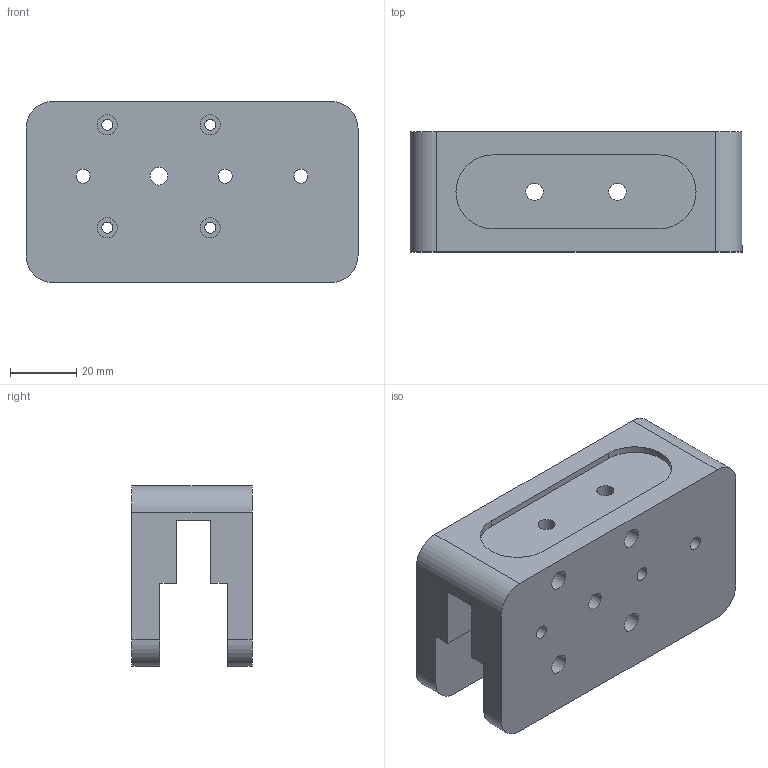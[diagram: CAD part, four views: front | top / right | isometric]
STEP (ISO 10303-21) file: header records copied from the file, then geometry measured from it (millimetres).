
FILE_DESCRIPTION(/* description */ (''),/* implementation_level */ '2;1');
FILE_NAME(/* name */ 'obudowa.step',/* time_stamp */ '2026-03-04T15:16:59+01:00',/* author */ (''),/* organization */ (''),/* preprocessor_version */ 'ST-DEVELOPER v20.1',/* originating_system */ 'Autodesk Translation Framework v14.24.0.0',/* authorisation */ '');
FILE_SCHEMA (('AUTOMOTIVE_DESIGN { 1 0 10303 214 3 1 1 }'));
Length unit declared in the file: millimetre
Products named in the file (1): obudowa
Bounding box: 100 x 36.2 x 54.5 mm (x, y, z)
Volume: 116831.7 mm3; surface area: 32420 mm2
Topology: 1 solids, 1 shells, 47 faces, 123 edges, 82 vertices
Faces by surface type: cylinder 27, plane 20
Full cylindrical faces by diameter (mm): 3.3 x4, 4.2 x6, 5.2 x2, 5.3 x2, 6 x4, 25 x1
Entity records: 1568 total; most frequent: DIRECTION 273, CARTESIAN_POINT 253, ORIENTED_EDGE 246, EDGE_CURVE 123, AXIS2_PLACEMENT_3D 102, EDGE_LOOP 83, VERTEX_POINT 82, LINE 69
